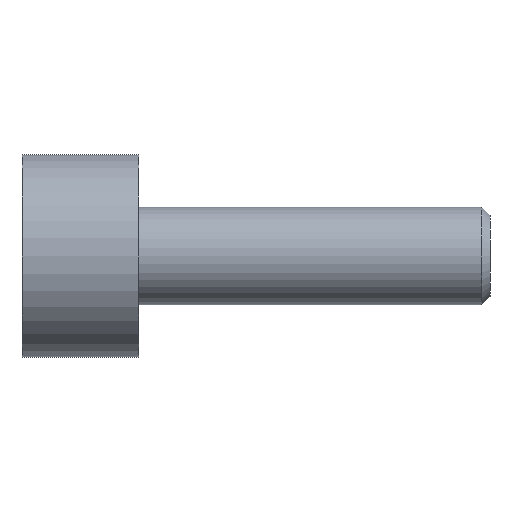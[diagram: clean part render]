
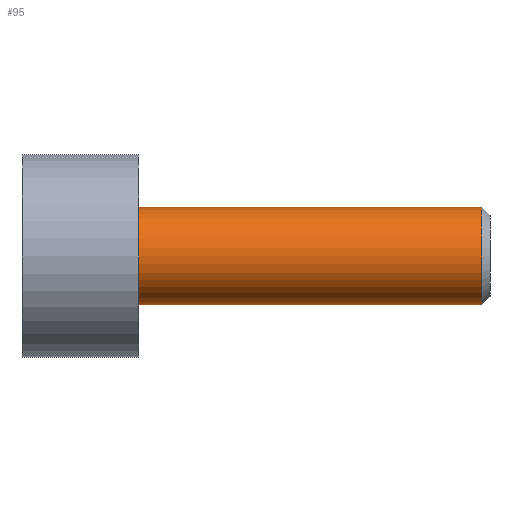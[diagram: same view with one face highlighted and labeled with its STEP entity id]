
A CAD part, front view. The second image highlights one B-rep face of the part: STEP entity #95.
In plain terms, the highlighted cylindrical face has radius 1.25 mm (diameter 2.5 mm), a full revolution.
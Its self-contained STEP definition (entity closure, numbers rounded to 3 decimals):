
#95 = ADVANCED_FACE( '', ( #164, #165 ), #166, .T. );
#164 = FACE_OUTER_BOUND( '', #256, .T. );
#165 = FACE_OUTER_BOUND( '', #257, .T. );
#166 = CYLINDRICAL_SURFACE( '', #258, 1.25 );
#256 = EDGE_LOOP( '', ( #467 ) );
#257 = EDGE_LOOP( '', ( #468 ) );
#258 = AXIS2_PLACEMENT_3D( '', #469, #470, #471 );
#467 = ORIENTED_EDGE( '', *, *, #694, .F. );
#468 = ORIENTED_EDGE( '', *, *, #695, .T. );
#469 = CARTESIAN_POINT( '', ( 9., 0., 0. ) );
#470 = DIRECTION( '', ( -1., 0., 0. ) );
#471 = DIRECTION( '', ( 0., 0., -1. ) );
#694 = EDGE_CURVE( '', #845, #845, #846, .T. );
#695 = EDGE_CURVE( '', #847, #847, #848, .T. );
#845 = VERTEX_POINT( '', #1056 );
#846 = CIRCLE( '', #1057, 1.25 );
#847 = VERTEX_POINT( '', #1058 );
#848 = CIRCLE( '', #1059, 1.25 );
#1056 = CARTESIAN_POINT( '', ( 8.786, 0., -1.25 ) );
#1057 = AXIS2_PLACEMENT_3D( '', #1247, #1248, #1249 );
#1058 = CARTESIAN_POINT( '', ( 0., 0., -1.25 ) );
#1059 = AXIS2_PLACEMENT_3D( '', #1250, #1251, #1252 );
#1247 = CARTESIAN_POINT( '', ( 8.786, 0., 0. ) );
#1248 = DIRECTION( '', ( 1., 0., 0. ) );
#1249 = DIRECTION( '', ( 0., 0., -1. ) );
#1250 = CARTESIAN_POINT( '', ( 0., 0., 0. ) );
#1251 = DIRECTION( '', ( 1., 0., 0. ) );
#1252 = DIRECTION( '', ( 0., 0., -1. ) );
